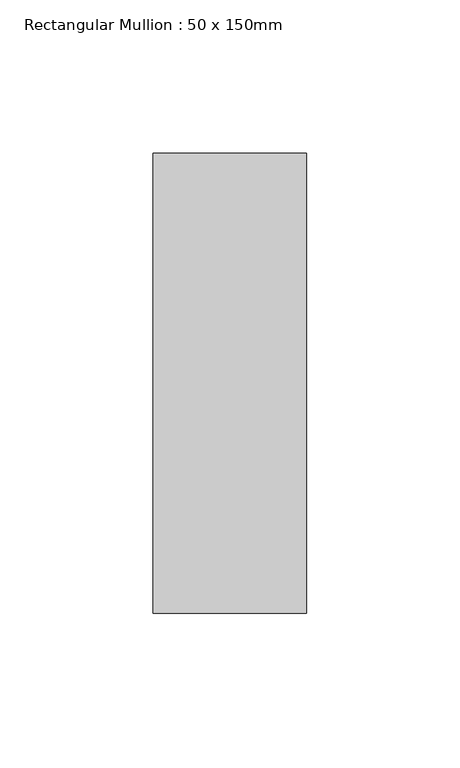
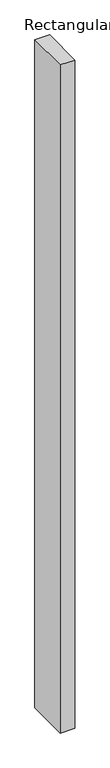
"""IFC4 building model written with IfcOpenShell, lengths in millimetres: member geometry, Rectangular Mullion : 50 x 150mm."""

from ifc_helpers import new_model, si_unit, frame, origin, place, context, project, spatial, polyline, outline, extrude, source, transform, mapped, element, save


def rectangular_mullion_50_x_150mm_25ba70fb(model_context):
    return source(origin(), model_context, "Body", "SweptSolid", [
        extrude(outline(polyline([(25.0, 75.0), (25.0, -75.0), (-25.0, -75.0), (-25.0, 75.0), (25.0, 75.0)])), frame((0.0, 0.0, -2411.6632527), z_axis=(0.0, 0.0, 1.0), x_axis=(1.0, 0.0, 0.0)), (0.0, 0.0, 1.0), 2411.6632527),
    ])


if __name__ == "__main__":
    model = new_model("IFC4")
    model_context = context("Model", 3, world=origin())
    ifc_project = project(units=[si_unit("LENGTHUNIT", "METRE", prefix="MILLI")], contexts=[model_context])
    site = spatial("IfcSite", under=ifc_project)
    building = spatial("IfcBuilding", under=site)
    placement = place(None, origin())
    rectangular_mullion_50_x_150mm_shape = rectangular_mullion_50_x_150mm_25ba70fb(model_context)
    element("IfcMember", 1, ObjectType="Rectangular Mullion : 50 x 150mm", at=placement, inside=building, context=model_context, shape_type="MappedRepresentation", body=[
        mapped(rectangular_mullion_50_x_150mm_shape, transform((0.0, 0.0, 0.0), x_axis=(1.0, 0.0, 0.0), y_axis=(0.0, 1.0, 0.0), z_axis=(0.0, 0.0, 1.0))),
    ])
    save(model, "model.ifc")
